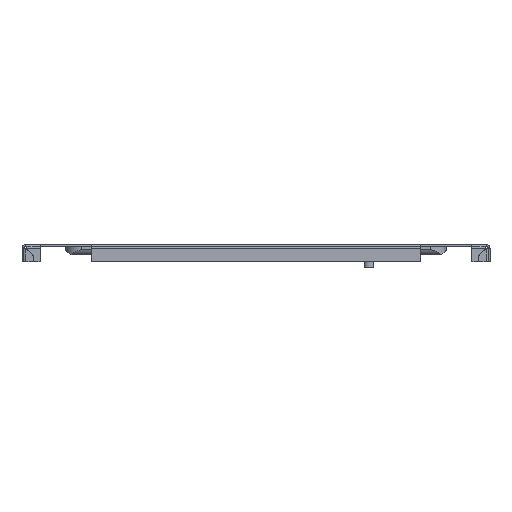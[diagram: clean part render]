
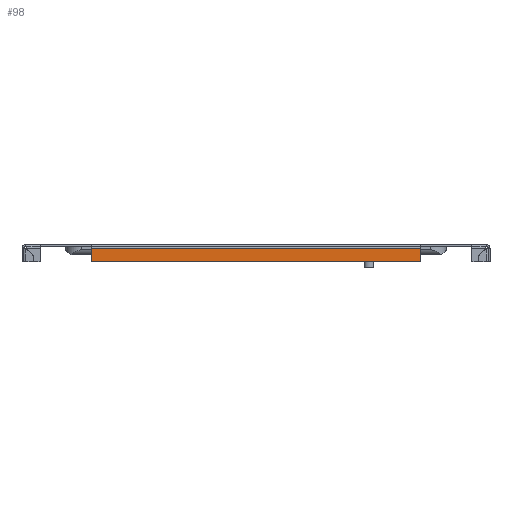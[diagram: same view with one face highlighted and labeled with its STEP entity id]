
A CAD part, front view. The second image highlights one B-rep face of the part: STEP entity #98.
In plain terms, the highlighted planar face has unit normal (0, -1, 0).
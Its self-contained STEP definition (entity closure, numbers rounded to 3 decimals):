
#98=ADVANCED_FACE('',(#452),#454,.F.);
#452=FACE_BOUND('',#453,.T.);
#453=EDGE_LOOP('',(#1915,#1916,#1917,#1918));
#454=PLANE('',#455);
#455=AXIS2_PLACEMENT_3D('',#456,#457,#458);
#456=CARTESIAN_POINT('',(0.,-548.5,0.));
#457=DIRECTION('',(0.,1.,0.));
#458=DIRECTION('',(0.,0.,1.));
#1915=ORIENTED_EDGE('',*,*,#2671,.T.);
#1916=ORIENTED_EDGE('',*,*,#2647,.F.);
#1917=ORIENTED_EDGE('',*,*,#2672,.T.);
#1918=ORIENTED_EDGE('',*,*,#2673,.F.);
#2647=EDGE_CURVE('',#3071,#3072,#3073,.T.);
#2671=EDGE_CURVE('',#3111,#3072,#3112,.T.);
#2672=EDGE_CURVE('',#3071,#3113,#3114,.T.);
#2673=EDGE_CURVE('',#3111,#3113,#3115,.T.);
#3071=VERTEX_POINT('',#3809);
#3072=VERTEX_POINT('',#3810);
#3073=LINE('',#3811,#3812);
#3111=VERTEX_POINT('',#3959);
#3112=LINE('',#3960,#3961);
#3113=VERTEX_POINT('',#3963);
#3114=LINE('',#3964,#3965);
#3115=LINE('',#3967,#3968);
#3809=CARTESIAN_POINT('',(-136.2,-548.5,-3.2));
#3810=CARTESIAN_POINT('',(136.2,-548.5,-3.2));
#3811=CARTESIAN_POINT('',(-136.2,-548.5,-3.2));
#3812=VECTOR('',#3813,1.);
#3813=DIRECTION('',(1.,0.,0.));
#3959=CARTESIAN_POINT('',(136.2,-548.5,-14.));
#3960=CARTESIAN_POINT('',(136.2,-548.5,-14.));
#3961=VECTOR('',#3962,1.);
#3962=DIRECTION('',(0.,0.,1.));
#3963=CARTESIAN_POINT('',(-136.2,-548.5,-14.));
#3964=CARTESIAN_POINT('',(-136.2,-548.5,-3.2));
#3965=VECTOR('',#3966,1.);
#3966=DIRECTION('',(0.,0.,-1.));
#3967=CARTESIAN_POINT('',(136.2,-548.5,-14.));
#3968=VECTOR('',#3969,1.);
#3969=DIRECTION('',(-1.,0.,0.));
